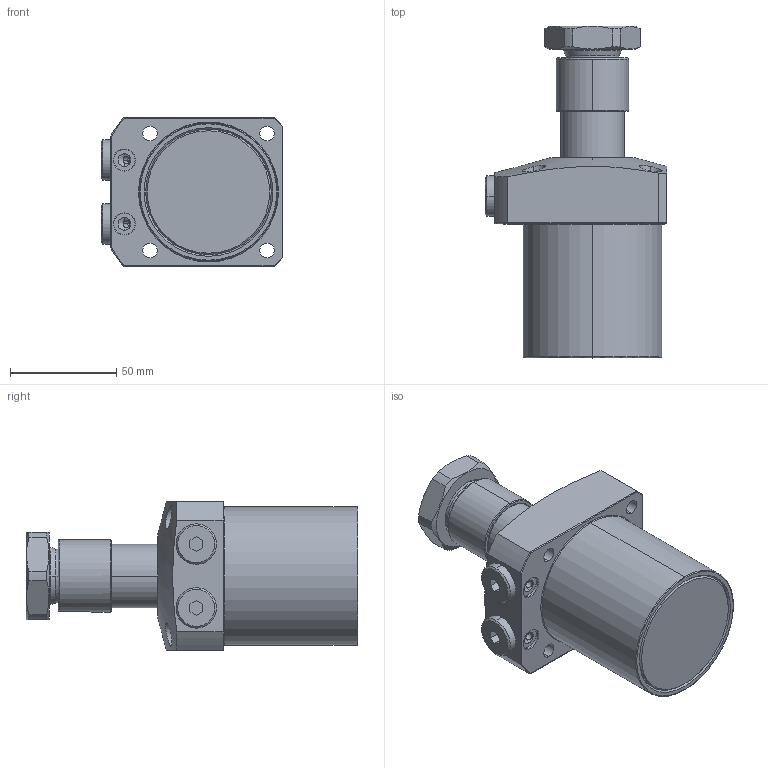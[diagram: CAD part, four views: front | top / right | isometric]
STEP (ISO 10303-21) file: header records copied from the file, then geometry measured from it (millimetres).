
FILE_DESCRIPTION(/* description */ (''),/* implementation_level */ '2;1');
FILE_NAME(/* name */ 'KTRC65-L.stp',/* time_stamp */ '2022-11-17T14:56:27+08:00',/* author */ (''),/* organization */ (''),/* preprocessor_version */ 'ST-DEVELOPER v16.7',/* originating_system */ 'SIEMENS PLM Software NX 12.0',/* authorisation */ '');
FILE_SCHEMA (('AP203_CONFIGURATION_CONTROLLED_3D_DESIGN_OF_MECHANICAL_PARTS_AND_ASSEMBLIES_MIM_LF { 1 0 10303 403 2 1 2}'));
Length unit declared in the file: millimetre
Products named in the file (6): KTRC65-L-01; KTRC65-L-04; KTRC65-L-03; KTRC65-L-02; KTRC65-L-05; LHA0650-CL_step
Assembly tree (6 placements, depth 2):
  LHA0650-CL_step
    KTRC65-L-05  x2
    KTRC65-L-02
    KTRC65-L-03
    KTRC65-L-04
    KTRC65-L-01
Bounding box: 85.5 x 156 x 70 mm (x, y, z)
Volume: 415615.6 mm3; surface area: 55159.4 mm2
Topology: 6 solids, 6 shells, 219 faces, 519 edges, 325 vertices
Faces by surface type: cylinder 75, plane 75, cone 47, torus 20, sphere 2
Entity records: 7335 total; most frequent: CARTESIAN_POINT 1849, DIRECTION 1027, ORIENTED_EDGE 978, EDGE_CURVE 489, AXIS2_PLACEMENT_3D 417, VERTEX_POINT 307, EDGE_LOOP 234, ADVANCED_FACE 206
